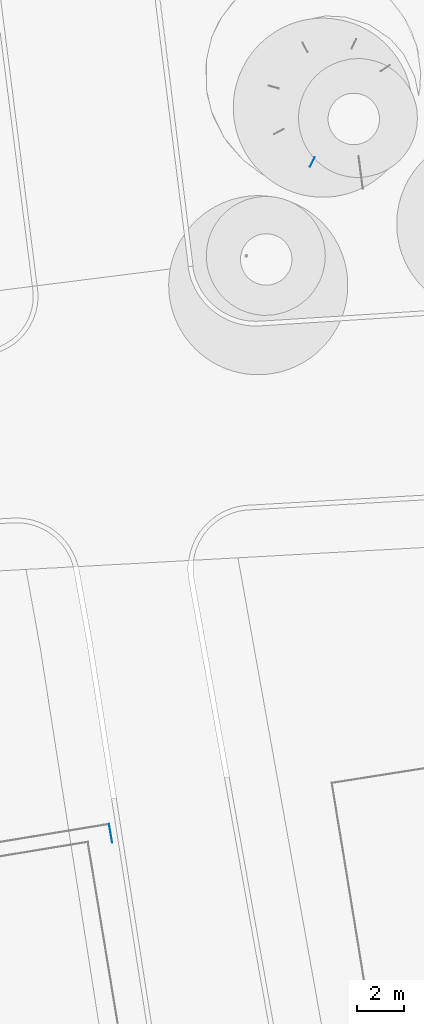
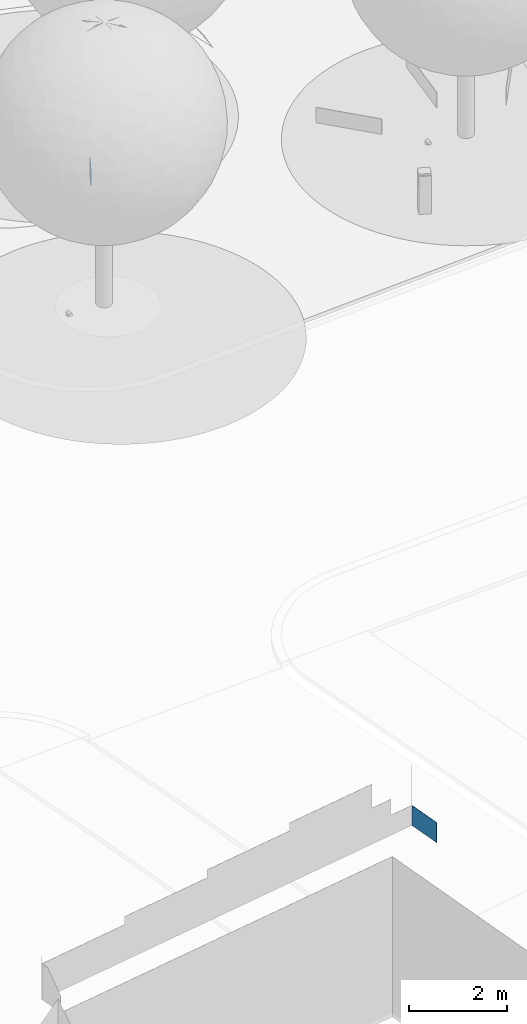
# One storey, part 37 of 75: 2 walls.
"""IFC2X3 building model written with IfcOpenShell, lengths in metres."""

from ifc_helpers import new_model, entity, si_unit, converted_unit, derived_unit, direction, frame, frame_2d, origin, place, context, subcontext, project, spatial, rectangle, extrude, material, layer, layer_set, layer_usage, type_object, element, save


model = new_model("IFC2X3")

# Units and contexts
model_context = context("Model", 3, precision=1e-05, world=origin(), true_north=direction((6.123031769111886e-17, 1.0)))
body_context = subcontext(model_context, "Body", "Model", "MODEL_VIEW")
ifc_project = project(units=[si_unit("LENGTHUNIT", "METRE"), si_unit("AREAUNIT", "SQUARE_METRE"), si_unit("VOLUMEUNIT", "CUBIC_METRE"), converted_unit("PLANEANGLEUNIT", "DEGREE", entity("IfcRatioMeasure", 0.017453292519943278), si_unit("PLANEANGLEUNIT", "RADIAN"), dimensions=[0, 0, 0, 0, 0, 0, 0]), si_unit("MASSUNIT", "GRAM", prefix="KILO"), derived_unit("MASSDENSITYUNIT", [(si_unit("MASSUNIT", "GRAM", prefix="KILO"), 1), (si_unit("LENGTHUNIT", "METRE"), -3)]), derived_unit("IONCONCENTRATIONUNIT", [(si_unit("MASSUNIT", "GRAM", prefix="KILO"), 1), (si_unit("LENGTHUNIT", "METRE"), -3)]), derived_unit("MOMENTOFINERTIAUNIT", [(si_unit("LENGTHUNIT", "METRE"), 4)]), si_unit("TIMEUNIT", "SECOND"), si_unit("FREQUENCYUNIT", "HERTZ"), si_unit("THERMODYNAMICTEMPERATUREUNIT", "DEGREE_CELSIUS"), derived_unit("THERMALTRANSMITTANCEUNIT", [(si_unit("MASSUNIT", "GRAM", prefix="KILO"), 1), (si_unit("THERMODYNAMICTEMPERATUREUNIT", "KELVIN"), -1), (si_unit("TIMEUNIT", "SECOND"), -3)]), derived_unit("THERMALCONDUCTANCEUNIT", [(si_unit("MASSUNIT", "GRAM", prefix="KILO"), 1), (si_unit("THERMODYNAMICTEMPERATUREUNIT", "KELVIN"), -1), (si_unit("TIMEUNIT", "SECOND"), -3), (si_unit("LENGTHUNIT", "METRE"), 1)]), derived_unit("VOLUMETRICFLOWRATEUNIT", [(si_unit("LENGTHUNIT", "METRE"), 3), (si_unit("TIMEUNIT", "SECOND"), -1)]), derived_unit("MASSFLOWRATEUNIT", [(si_unit("MASSUNIT", "GRAM", prefix="KILO"), 1), (si_unit("TIMEUNIT", "SECOND"), -1)]), derived_unit("ROTATIONALFREQUENCYUNIT", [(si_unit("TIMEUNIT", "SECOND"), -1)]), si_unit("ELECTRICCURRENTUNIT", "AMPERE"), si_unit("ELECTRICVOLTAGEUNIT", "VOLT"), si_unit("POWERUNIT", "WATT"), si_unit("FORCEUNIT", "NEWTON", prefix="KILO"), si_unit("ILLUMINANCEUNIT", "LUX"), si_unit("LUMINOUSFLUXUNIT", "LUMEN"), si_unit("LUMINOUSINTENSITYUNIT", "CANDELA"), derived_unit("USERDEFINED", [(si_unit("MASSUNIT", "GRAM", prefix="KILO"), -1), (si_unit("LENGTHUNIT", "METRE"), -2), (si_unit("TIMEUNIT", "SECOND"), 3), (si_unit("LUMINOUSFLUXUNIT", "LUMEN"), 1)]), derived_unit("USERDEFINED", [(si_unit("MASSUNIT", "GRAM", prefix="KILO"), 1), (si_unit("TIMEUNIT", "SECOND"), -3), (si_unit("LENGTHUNIT", "METRE"), 3), (si_unit("ELECTRICCURRENTUNIT", "AMPERE"), -2)]), derived_unit("SOUNDPOWERUNIT", [(si_unit("MASSUNIT", "GRAM", prefix="KILO"), 1), (si_unit("TIMEUNIT", "SECOND"), -3), (si_unit("LENGTHUNIT", "METRE"), 2)]), derived_unit("SOUNDPRESSUREUNIT", [(si_unit("MASSUNIT", "GRAM", prefix="KILO"), 1), (si_unit("LENGTHUNIT", "METRE"), -1), (si_unit("TIMEUNIT", "SECOND"), -2)]), derived_unit("LINEARVELOCITYUNIT", [(si_unit("LENGTHUNIT", "METRE"), 1), (si_unit("TIMEUNIT", "SECOND"), -1)]), si_unit("PRESSUREUNIT", "PASCAL"), derived_unit("USERDEFINED", [(si_unit("MASSUNIT", "GRAM", prefix="KILO"), 1), (si_unit("LENGTHUNIT", "METRE"), -2), (si_unit("TIMEUNIT", "SECOND"), -2)]), derived_unit("LINEARFORCEUNIT", [(si_unit("MASSUNIT", "GRAM", prefix="KILO"), 1), (si_unit("TIMEUNIT", "SECOND"), -2)]), derived_unit("PLANARFORCEUNIT", [(si_unit("MASSUNIT", "GRAM", prefix="KILO"), 1), (si_unit("LENGTHUNIT", "METRE"), -1), (si_unit("TIMEUNIT", "SECOND"), -2)]), derived_unit("SPECIFICHEATCAPACITYUNIT", [(si_unit("THERMODYNAMICTEMPERATUREUNIT", "KELVIN"), -1), (si_unit("LENGTHUNIT", "METRE"), 2), (si_unit("TIMEUNIT", "SECOND"), -2)]), derived_unit("HEATINGVALUEUNIT", [(si_unit("LENGTHUNIT", "METRE"), 2), (si_unit("TIMEUNIT", "SECOND"), -2)]), derived_unit("VAPORPERMEABILITYUNIT", [(si_unit("LENGTHUNIT", "METRE"), -1), (si_unit("TIMEUNIT", "SECOND"), 1)]), derived_unit("DYNAMICVISCOSITYUNIT", [(si_unit("MASSUNIT", "GRAM", prefix="KILO"), 1), (si_unit("TIMEUNIT", "SECOND"), -1), (si_unit("LENGTHUNIT", "METRE"), -1)]), derived_unit("THERMALEXPANSIONCOEFFICIENTUNIT", [(si_unit("THERMODYNAMICTEMPERATUREUNIT", "KELVIN"), -1)]), derived_unit("MODULUSOFELASTICITYUNIT", [(si_unit("MASSUNIT", "GRAM", prefix="KILO"), 1), (si_unit("LENGTHUNIT", "METRE"), -1), (si_unit("TIMEUNIT", "SECOND"), -2)]), derived_unit("ISOTHERMALMOISTURECAPACITYUNIT", [(si_unit("LENGTHUNIT", "METRE"), 3), (si_unit("MASSUNIT", "GRAM", prefix="KILO"), -1)]), derived_unit("MOISTUREDIFFUSIVITYUNIT", [(si_unit("TIMEUNIT", "SECOND"), -1), (si_unit("LENGTHUNIT", "METRE"), 2)])], contexts=[model_context])

# Site, building, storey
site_placement = place(None, origin())
site = spatial("IfcSite", under=ifc_project, at=site_placement, Name="Default", CompositionType="ELEMENT")
building_placement = place(site_placement, origin())
building = spatial("IfcBuilding", under=site, at=building_placement, Name="Projeto", CompositionType="ELEMENT")
storey_placement = place(building_placement, origin())
storey = spatial("IfcBuildingStorey", under=building, at=storey_placement, Name="Nível 1", CompositionType="ELEMENT", Elevation=0.0)

# Walls
ifc_material_1 = material(Name="Metal")
ifc_layer_1 = layer(ifc_material_1, 0.01)
ifc_layer_set_1 = layer_set([ifc_layer_1], Name="Parede básica:JA_Aluminio")
ifc_layer_usage_1 = layer_usage(ifc_layer_set_1, "AXIS2", "POSITIVE", -0.005)
wall_type_1 = type_object("IfcWallType", Name="Parede básica:JA_Aluminio", PredefinedType="STANDARD", material=ifc_layer_set_1)
wall_1_placement = place(storey_placement, frame((-26.81734615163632, -41.75502689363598, 3.9000000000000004), z_axis=(0.0, 0.0, 1.0), x_axis=(0.16323170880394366, -0.9865877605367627, 0.0)))
element("IfcWallStandardCase", 1, at=wall_1_placement, inside=storey, type_object=wall_type_1, material=ifc_layer_usage_1, Name="Parede básica:JA_Aluminio", ObjectType="Parede básica:JA_Aluminio", context=body_context, shape_type="SweptSolid", body=[
    extrude(rectangle(XDim=0.7999999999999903, YDim=0.00999999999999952, at=frame_2d((0.39999999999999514, 5.234528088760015e-16), x_axis=(-1.0, 0.0))), origin(), (0.0, 0.0, 1.0), 0.49999999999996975),
])
ifc_material_2 = material(Name=".ARQ.PIS - CONTRAPISO.ARMADO")
ifc_layer_2 = layer(ifc_material_2, 0.01)
ifc_layer_set_2 = layer_set([ifc_layer_2], Name="Parede básica:15cm 2")
ifc_layer_usage_2 = layer_usage(ifc_layer_set_2, "AXIS2", "NEGATIVE", 0.005000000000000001)
wall_type_2 = type_object("IfcWallType", Name="Parede básica:15cm 2", PredefinedType="STANDARD", material=ifc_layer_set_2)
wall_2_placement = place(storey_placement, frame((-18.10762066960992, -13.506616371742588, 0.0), z_axis=(0.0, 0.0, 1.0), x_axis=(-0.4531012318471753, -0.8914590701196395, 0.0)))
element("IfcWallStandardCase", 2, at=wall_2_placement, inside=storey, type_object=wall_type_2, material=ifc_layer_usage_2, Name="Parede básica:15cm 2", ObjectType="Parede básica:15cm 2", context=body_context, shape_type="SweptSolid", body=[
    extrude(rectangle(XDim=0.4499999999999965, YDim=0.009999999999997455, at=frame_2d((0.22499999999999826, 3.469446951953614e-18), x_axis=(-1.0, 0.0))), origin(), (0.0, 0.0, 1.0), 0.37999999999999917),
])

save(model, "model.ifc")
